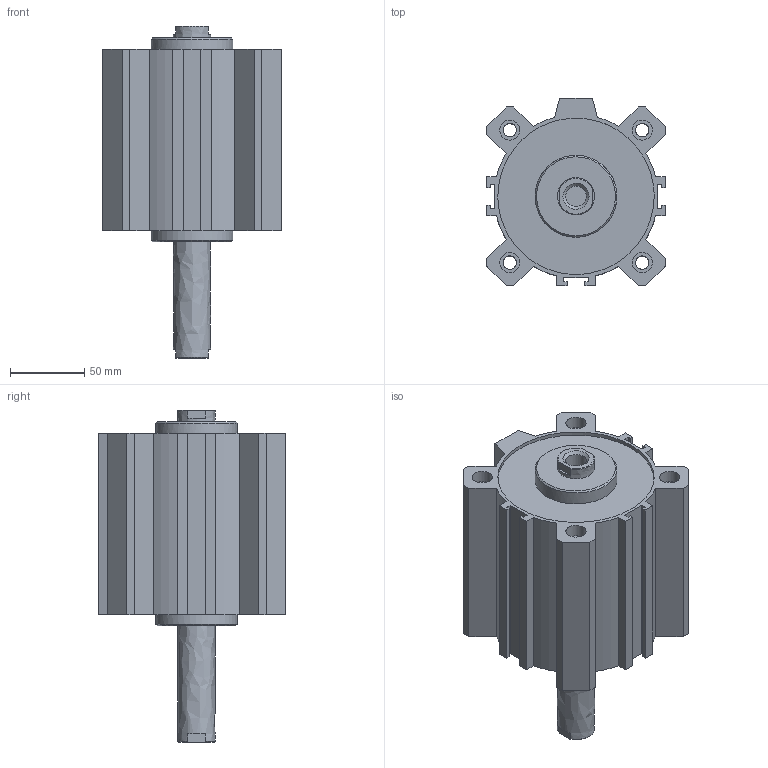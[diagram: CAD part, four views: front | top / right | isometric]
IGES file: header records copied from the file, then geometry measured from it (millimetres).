
Global section: file name: 1514_100_0070; native system: Autodesk Inventor 2014; preprocessor: unknown; author: A. Manieri; date: 20160824.163308; units: millimetre
Bounding box: 120 x 126 x 223 mm (x, y, z)
Volume: 960706.9 mm3; surface area: 203846.6 mm2
Topology: 2 solids, 2 shells, 132 faces, 346 edges, 238 vertices
Faces by surface type: bspline 132
